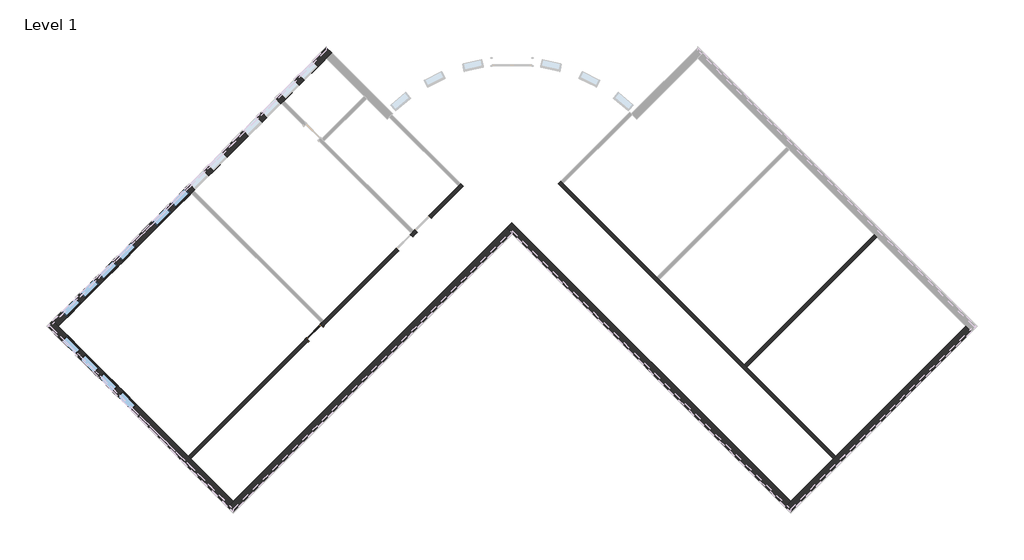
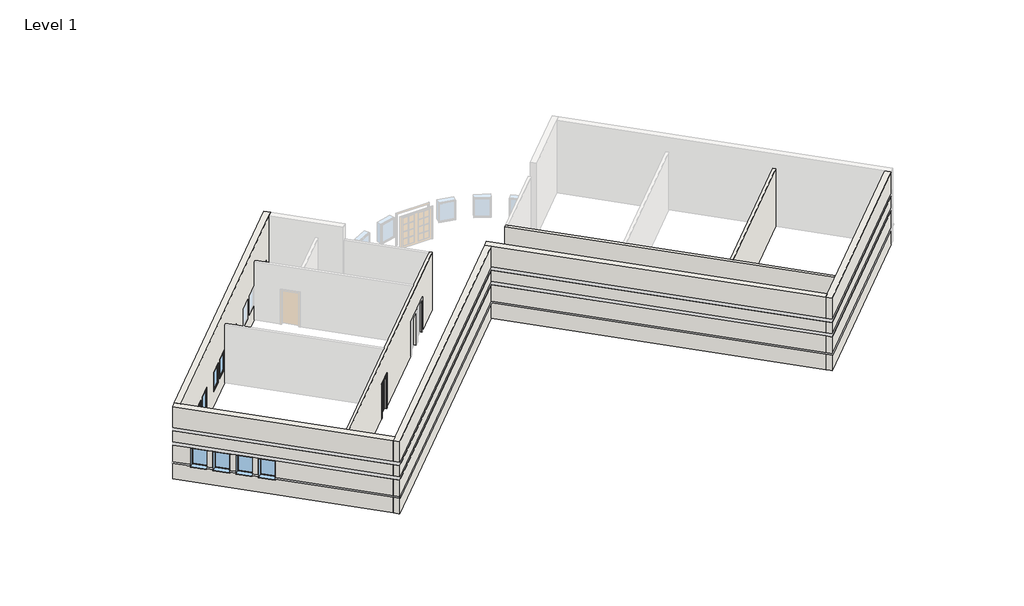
# One storey, part 1 of 3: 10 windows, 8 walls, 1 door.
"""IFC4 building model written with IfcOpenShell, lengths in millimetres."""

from ifc_helpers import new_model, si_unit, origin, origin_with_axes, place, context, project, spatial, polyline, outline, extrude, faceted_brep, transform, mapped, element, save
from components import door_b81abb0e, window_15c49d37, window_0e2fc6ce

model = new_model("IFC4")

# Units and contexts
model_context = context("Model", 3, world=origin())
ifc_project = project(units=[si_unit("LENGTHUNIT", "METRE", prefix="MILLI")], contexts=[model_context])

# Site, building, storey
site = spatial("IfcSite", under=ifc_project)
building = spatial("IfcBuilding", under=site)
storey = spatial("IfcBuildingStorey", under=building, Name="Level 1", Elevation=0.0)

# Door
placement = place(None, origin())
door_shape = door_b81abb0e(model_context)
element("IfcDoor", 1, ObjectType="Single-Glass 1 : 36\" x 84\"", at=placement, inside=storey, context=model_context, shape_type="MappedRepresentation", body=[
    mapped(door_shape, transform((-12602.8718391, -2278.0890678, 0.0), x_axis=(0.707106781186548, 0.707106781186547, 0.0), y_axis=(-0.707106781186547, 0.707106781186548, 0.0), z_axis=(0.0, 0.0, 1.0))),
])

# Walls
element("IfcWall", 2, ObjectType="Exterior - Split Face and CMU on Mtl. Stud", at=placement, inside=storey, context=model_context, shape_type="Brep", body=[
    faceted_brep([(17611.1998802, -1988.4758079, 0.0), (11574.2227029, -8025.4529853, 0.0), (11464.2145654, -8135.4611227, 0.0), (9488.5582187, -10111.1174694, 0.0), (9239.3561114, -10360.3195767, 0.0), (9239.3561114, -10360.3195767, 1016.0), (9304.4629682, -10295.2127199, 1016.0), (9304.4629682, -10295.2127199, 1085.85), (9239.3561114, -10360.3195767, 1085.85), (9239.3561114, -10360.3195767, 2133.6), (9304.4629682, -10295.2127199, 2133.6), (9304.4629682, -10295.2127199, 2336.8), (9239.3561114, -10360.3195767, 2336.8), (9239.3561114, -10360.3195767, 3048.0), (9304.4629682, -10295.2127199, 3048.0), (9304.4629682, -10295.2127199, 3251.2), (9239.3561114, -10360.3195767, 3251.2), (9239.3561114, -10360.3195767, 4572.0), (9488.5582187, -10111.1174694, 4572.0), (17611.1998802, -1988.4758079, 4572.0), (17860.4019876, -2237.6779152, 4572.0), (9488.5582187, -10609.5216841, 4572.0), (9488.5582187, -10609.5216841, 3251.2), (17860.4019876, -2237.6779152, 3251.2), (9488.5582187, -10609.5216841, 0.0), (17860.4019876, -2237.6779152, 0.0), (17860.4019876, -2237.6779152, 1016.0), (9488.5582187, -10609.5216841, 1016.0), (9488.5582187, -10609.5216841, 1085.85), (17860.4019876, -2237.6779152, 1085.85), (17860.4019876, -2237.6779152, 2133.6), (9488.5582187, -10609.5216841, 2133.6), (9488.5582187, -10609.5216841, 2336.8), (17860.4019876, -2237.6779152, 2336.8), (17860.4019876, -2237.6779152, 3048.0), (9488.5582187, -10609.5216841, 3048.0), (17795.2951307, -2172.5710583, 0.0), (9423.4513619, -10544.4148272, 0.0), (9488.5582187, -10479.3079703, 1016.0), (17795.2951307, -2172.5710583, 1016.0), (17795.2951307, -2172.5710583, 1085.85), (9488.5582187, -10479.3079703, 1085.85), (9488.5582187, -10479.3079703, 2133.6), (17795.2951307, -2172.5710583, 2133.6), (17795.2951307, -2172.5710583, 2336.8), (9488.5582187, -10479.3079703, 2336.8), (9488.5582187, -10479.3079703, 3251.2), (9488.5582187, -10479.3079703, 3048.0), (17795.2951307, -2172.5710583, 3048.0), (17795.2951307, -2172.5710583, 3251.2)], [[[0, 1, 2, 3, 4, 5, 6, 7, 8, 9, 10, 11, 12, 13, 14, 15, 16, 17, 18, 19]], [[20, 21, 22, 23]], [[24, 25, 26, 27]], [[28, 29, 30, 31]], [[32, 33, 34, 35]], [[19, 18, 17, 21, 20]], [[4, 3, 2, 1, 0, 36, 37]], [[38, 39, 40, 41]], [[42, 43, 44, 45]], [[46, 47, 48, 49]], [[0, 19, 20, 23, 49, 48, 34, 33, 44, 43, 30, 29, 40, 39, 26, 25, 36]], [[25, 24, 37, 36]], [[41, 40, 29, 28, 8, 7]], [[39, 38, 6, 5, 27, 26]], [[43, 42, 10, 9, 31, 30]], [[45, 44, 33, 32, 12, 11]], [[48, 47, 14, 13, 35, 34]], [[15, 46, 49, 23, 22, 16]], [[21, 17, 16, 22]], [[4, 37, 24, 27, 5]], [[8, 28, 31, 9]], [[12, 32, 35, 13]], [[38, 41, 7, 6]], [[42, 45, 11, 10]], [[47, 46, 15, 14]]]),
])
element("IfcWall", 3, ObjectType="Exterior - Split Face and CMU on Mtl. Stud", at=placement, inside=storey, context=model_context, shape_type="Brep", body=[
    faceted_brep([(9488.5582187, -10111.1174694, 0.0), (-3443.0105956, 2820.451345, 0.0), (-3443.0105956, 2820.451345, 4572.0), (9488.5582187, -10111.1174694, 4572.0), (9239.3561114, -10360.3195767, 4572.0), (-3443.0105956, 2322.0471303, 4572.0), (-3692.212703, 2571.2492376, 4572.0), (-3692.212703, 2571.2492376, 0.0), (-3443.0105956, 2322.0471303, 0.0), (9239.3561114, -10360.3195767, 0.0), (9239.3561114, -10360.3195767, 1016.0), (-3443.0105956, 2322.0471303, 1016.0), (-3508.1174525, 2387.1539871, 1016.0), (-3508.1174525, 2387.1539871, 1085.85), (-3443.0105956, 2322.0471303, 1085.85), (9239.3561114, -10360.3195767, 1085.85), (9239.3561114, -10360.3195767, 2133.6), (-3443.0105956, 2322.0471303, 2133.6), (-3508.1174525, 2387.1539871, 2133.6), (-3508.1174525, 2387.1539871, 2336.8), (-3443.0105956, 2322.0471303, 2336.8), (9239.3561114, -10360.3195767, 2336.8), (9239.3561114, -10360.3195767, 3048.0), (-3443.0105956, 2322.0471303, 3048.0), (-3508.1174525, 2387.1539871, 3048.0), (-3508.1174525, 2387.1539871, 3251.2), (-3443.0105956, 2322.0471303, 3251.2), (9239.3561114, -10360.3195767, 3251.2), (9304.4629682, -10295.2127199, 0.0), (-3627.1058461, 2636.3560945, 0.0), (-3443.0105956, 2452.260844, 1016.0), (9304.4629682, -10295.2127199, 1016.0), (9304.4629682, -10295.2127199, 1085.85), (-3443.0105956, 2452.260844, 1085.85), (-3443.0105956, 2452.260844, 2133.6), (9304.4629682, -10295.2127199, 2133.6), (9304.4629682, -10295.2127199, 2336.8), (-3443.0105956, 2452.260844, 2336.8), (-3443.0105956, 2452.260844, 3251.2), (-3443.0105956, 2452.260844, 3048.0), (9304.4629682, -10295.2127199, 3048.0), (9304.4629682, -10295.2127199, 3251.2)], [[[0, 1, 2, 3]], [[4, 5, 6, 7, 8, 9, 10, 11, 12, 13, 14, 15, 16, 17, 18, 19, 20, 21, 22, 23, 24, 25, 26, 27]], [[3, 2, 6, 5, 4]], [[1, 0, 28, 29]], [[30, 31, 32, 33]], [[34, 35, 36, 37]], [[38, 39, 40, 41]], [[0, 3, 4, 27, 41, 40, 22, 21, 36, 35, 16, 15, 32, 31, 10, 9, 28]], [[9, 8, 7, 29, 28]], [[33, 32, 15, 14, 13]], [[31, 30, 12, 11, 10]], [[35, 34, 18, 17, 16]], [[37, 36, 21, 20, 19]], [[40, 39, 24, 23, 22]], [[25, 38, 41, 27, 26]], [[2, 1, 29, 7, 6]], [[30, 33, 13, 12]], [[34, 37, 19, 18]], [[39, 38, 25, 24]]]),
])
element("IfcWall", 4, ObjectType="Exterior - Split Face and CMU on Mtl. Stud", at=placement, inside=storey, context=model_context, shape_type="Brep", body=[
    faceted_brep([(-3692.212703, 2571.2492376, 0.0), (-16374.5794099, -10111.1174694, 0.0), (-16623.7815173, -10360.3195767, 0.0), (-16623.7815173, -10360.3195767, 1016.0), (-16558.6746604, -10295.2127199, 1016.0), (-16558.6746604, -10295.2127199, 1085.85), (-16623.7815173, -10360.3195767, 1085.85), (-16623.7815173, -10360.3195767, 2133.6), (-16558.6746604, -10295.2127199, 2133.6), (-16558.6746604, -10295.2127199, 2336.8), (-16623.7815173, -10360.3195767, 2336.8), (-16623.7815173, -10360.3195767, 3048.0), (-16558.6746604, -10295.2127199, 3048.0), (-16558.6746604, -10295.2127199, 3251.2), (-16623.7815173, -10360.3195767, 3251.2), (-16623.7815173, -10360.3195767, 4572.0), (-16374.5794099, -10111.1174694, 4572.0), (-3692.212703, 2571.2492376, 4572.0), (-3443.0105956, 2322.0471303, 4572.0), (-16374.5794099, -10609.5216841, 4572.0), (-16374.5794099, -10609.5216841, 3251.2), (-3443.0105956, 2322.0471303, 3251.2), (-16374.5794099, -10609.5216841, 0.0), (-3443.0105956, 2322.0471303, 0.0), (-3443.0105956, 2322.0471303, 1016.0), (-16374.5794099, -10609.5216841, 1016.0), (-16374.5794099, -10609.5216841, 1085.85), (-3443.0105956, 2322.0471303, 1085.85), (-3443.0105956, 2322.0471303, 2133.6), (-16374.5794099, -10609.5216841, 2133.6), (-16374.5794099, -10609.5216841, 2336.8), (-3443.0105956, 2322.0471303, 2336.8), (-3443.0105956, 2322.0471303, 3048.0), (-16374.5794099, -10609.5216841, 3048.0), (-3508.1174525, 2387.1539871, 0.0), (-16439.6862668, -10544.4148272, 0.0), (-16374.5794099, -10479.3079703, 1016.0), (-3508.1174525, 2387.1539871, 1016.0), (-3508.1174525, 2387.1539871, 1085.85), (-16374.5794099, -10479.3079703, 1085.85), (-16374.5794099, -10479.3079703, 2133.6), (-3508.1174525, 2387.1539871, 2133.6), (-3508.1174525, 2387.1539871, 2336.8), (-16374.5794099, -10479.3079703, 2336.8), (-16374.5794099, -10479.3079703, 3251.2), (-16374.5794099, -10479.3079703, 3048.0), (-3508.1174525, 2387.1539871, 3048.0), (-3508.1174525, 2387.1539871, 3251.2)], [[[0, 1, 2, 3, 4, 5, 6, 7, 8, 9, 10, 11, 12, 13, 14, 15, 16, 17]], [[18, 19, 20, 21]], [[22, 23, 24, 25]], [[26, 27, 28, 29]], [[30, 31, 32, 33]], [[17, 16, 15, 19, 18]], [[2, 1, 0, 34, 35]], [[36, 37, 38, 39]], [[40, 41, 42, 43]], [[44, 45, 46, 47]], [[0, 17, 18, 21, 47, 46, 32, 31, 42, 41, 28, 27, 38, 37, 24, 23, 34]], [[23, 22, 35, 34]], [[39, 38, 27, 26, 6, 5]], [[37, 36, 4, 3, 25, 24]], [[41, 40, 8, 7, 29, 28]], [[43, 42, 31, 30, 10, 9]], [[46, 45, 12, 11, 33, 32]], [[13, 44, 47, 21, 20, 14]], [[19, 15, 14, 20]], [[2, 35, 22, 25, 3]], [[6, 26, 29, 7]], [[10, 30, 33, 11]], [[36, 39, 5, 4]], [[40, 43, 9, 8]], [[45, 44, 13, 12]]]),
])
element("IfcWall", 5, ObjectType="Exterior - Split Face and CMU on Mtl. Stud", at=placement, inside=storey, context=model_context, shape_type="Brep", body=[
    faceted_brep([(-16374.5794099, -10111.1174694, 0.0), (-18350.2357566, -8135.4611227, 0.0), (-18460.2438941, -8025.4529853, 0.0), (-24497.2210715, -1988.4758079, 0.0), (-24746.4231788, -1739.2737005, 0.0), (-24746.4231788, -1739.2737005, 1016.0), (-24681.3163219, -1804.3805574, 1016.0), (-24681.3163219, -1804.3805574, 1085.85), (-24746.4231788, -1739.2737005, 1085.85), (-24746.4231788, -1739.2737005, 2133.6), (-24681.3163219, -1804.3805574, 2133.6), (-24681.3163219, -1804.3805574, 2336.8), (-24746.4231788, -1739.2737005, 2336.8), (-24746.4231788, -1739.2737005, 3048.0), (-24681.3163219, -1804.3805574, 3048.0), (-24681.3163219, -1804.3805574, 3251.2), (-24746.4231788, -1739.2737005, 3251.2), (-24746.4231788, -1739.2737005, 4572.0), (-24497.2210715, -1988.4758079, 4572.0), (-16374.5794099, -10111.1174694, 4572.0), (-21496.692995, -4989.0038843, 2133.6), (-21496.692995, -4989.0038843, 914.4), (-20850.1145543, -5635.582325, 914.4), (-20850.1145543, -5635.582325, 2133.6), (-22358.7975826, -4126.8992967, 2133.6), (-22358.7975826, -4126.8992967, 914.4), (-21712.2191419, -4773.4777374, 914.4), (-21712.2191419, -4773.4777374, 2133.6), (-23220.9021702, -3264.7947091, 2133.6), (-23220.9021702, -3264.7947091, 914.4), (-22574.3237295, -3911.3731498, 914.4), (-22574.3237295, -3911.3731498, 2133.6), (-24083.0067579, -2402.6901214, 2133.6), (-24083.0067579, -2402.6901214, 914.4), (-23436.4283172, -3049.2685622, 914.4), (-23436.4283172, -3049.2685622, 2133.6), (-16623.7815173, -10360.3195767, 4572.0), (-24995.6252862, -1988.4758079, 4572.0), (-24995.6252862, -1988.4758079, 3251.2), (-16623.7815173, -10360.3195767, 3251.2), (-24995.6252862, -1988.4758079, 0.0), (-16623.7815173, -10360.3195767, 0.0), (-16623.7815173, -10360.3195767, 1016.0), (-21099.3166616, -5884.7844324, 1016.0), (-21099.3166616, -5884.7844324, 914.4), (-21745.8951024, -5238.2059917, 914.4), (-21745.8951024, -5238.2059917, 1016.0), (-21961.4212493, -5022.6798448, 1016.0), (-21961.4212493, -5022.6798448, 914.4), (-22607.99969, -4376.1014041, 914.4), (-22607.99969, -4376.1014041, 1016.0), (-22823.5258369, -4160.5752571, 1016.0), (-22823.5258369, -4160.5752571, 914.4), (-23470.1042776, -3513.9968164, 914.4), (-23470.1042776, -3513.9968164, 1016.0), (-23685.6304245, -3298.4706695, 1016.0), (-23685.6304245, -3298.4706695, 914.4), (-24332.2088652, -2651.8922288, 914.4), (-24332.2088652, -2651.8922288, 1016.0), (-24995.6252862, -1988.4758079, 1016.0), (-24995.6252862, -1988.4758079, 1085.85), (-24332.2088652, -2651.8922288, 1085.85), (-24332.2088652, -2651.8922288, 2133.6), (-24995.6252862, -1988.4758079, 2133.6), (-21099.3166616, -5884.7844324, 1085.85), (-16623.7815173, -10360.3195767, 1085.85), (-16623.7815173, -10360.3195767, 2133.6), (-21099.3166616, -5884.7844324, 2133.6), (-24995.6252862, -1988.4758079, 2336.8), (-16623.7815173, -10360.3195767, 2336.8), (-16623.7815173, -10360.3195767, 3048.0), (-24995.6252862, -1988.4758079, 3048.0), (-21745.8951024, -5238.2059917, 1085.85), (-21745.8951024, -5238.2059917, 2133.6), (-21961.4212493, -5022.6798448, 2133.6), (-21961.4212493, -5022.6798448, 1085.85), (-22607.99969, -4376.1014041, 1085.85), (-22607.99969, -4376.1014041, 2133.6), (-22823.5258369, -4160.5752571, 2133.6), (-22823.5258369, -4160.5752571, 1085.85), (-23470.1042776, -3513.9968164, 1085.85), (-23470.1042776, -3513.9968164, 2133.6), (-23685.6304245, -3298.4706695, 2133.6), (-23685.6304245, -3298.4706695, 1085.85), (-16558.6746604, -10295.2127199, 0.0), (-24930.5184293, -1923.368951, 0.0), (-24865.4115724, -1988.4758079, 1085.85), (-24267.1020084, -2586.7853719, 1085.85), (-24267.1020084, -2586.7853719, 1016.0), (-24865.4115724, -1988.4758079, 1016.0), (-16558.6746604, -10295.2127199, 2336.8), (-24865.4115724, -1988.4758079, 2336.8), (-24865.4115724, -1988.4758079, 2133.6), (-24267.1020084, -2586.7853719, 2133.6), (-23620.5235676, -3233.3638126, 2133.6), (-23404.9974207, -3448.8899596, 2133.6), (-22758.41898, -4095.4684003, 2133.6), (-22542.8928331, -4310.9945472, 2133.6), (-21896.3143924, -4957.5729879, 2133.6), (-21680.7882455, -5173.0991348, 2133.6), (-21034.2098048, -5819.6775755, 2133.6), (-16558.6746604, -10295.2127199, 2133.6), (-24865.4115724, -1988.4758079, 3251.2), (-24865.4115724, -1988.4758079, 3048.0), (-16558.6746604, -10295.2127199, 3048.0), (-16558.6746604, -10295.2127199, 3251.2), (-16558.6746604, -10295.2127199, 1085.85), (-16558.6746604, -10295.2127199, 1016.0), (-21034.2098048, -5819.6775755, 1085.85), (-21034.2098048, -5819.6775755, 1016.0), (-21680.7882455, -5173.0991348, 1085.85), (-21680.7882455, -5173.0991348, 1016.0), (-22542.8928331, -4310.9945472, 1085.85), (-22542.8928331, -4310.9945472, 1016.0), (-21896.3143924, -4957.5729879, 1016.0), (-21896.3143924, -4957.5729879, 1085.85), (-23404.9974207, -3448.8899596, 1085.85), (-23404.9974207, -3448.8899596, 1016.0), (-22758.41898, -4095.4684003, 1016.0), (-22758.41898, -4095.4684003, 1085.85), (-23620.5235676, -3233.3638126, 1016.0), (-23620.5235676, -3233.3638126, 1085.85)], [[[0, 1, 2, 3, 4, 5, 6, 7, 8, 9, 10, 11, 12, 13, 14, 15, 16, 17, 18, 19], [20, 21, 22, 23], [24, 25, 26, 27], [28, 29, 30, 31], [32, 33, 34, 35]], [[36, 37, 38, 39]], [[40, 41, 42, 43, 44, 45, 46, 47, 48, 49, 50, 51, 52, 53, 54, 55, 56, 57, 58, 59]], [[60, 61, 62, 63]], [[64, 65, 66, 67]], [[68, 69, 70, 71]], [[72, 73, 74, 75]], [[76, 77, 78, 79]], [[80, 81, 82, 83]], [[19, 18, 17, 37, 36]], [[4, 3, 2, 1, 0, 84, 85]], [[86, 87, 61, 60, 8, 7]], [[88, 89, 6, 5, 59, 58]], [[87, 86, 89, 88]], [[90, 91, 92, 93, 94, 95, 96, 97, 98, 99, 100, 101]], [[102, 103, 104, 105]], [[0, 19, 36, 39, 105, 104, 70, 69, 90, 101, 66, 65, 106, 107, 42, 41, 84]], [[41, 40, 85, 84]], [[65, 64, 108, 106]], [[43, 42, 107, 109]], [[66, 101, 100, 67]], [[63, 62, 93, 92, 10, 9]], [[99, 98, 74, 73]], [[97, 96, 78, 77]], [[95, 94, 82, 81]], [[91, 90, 69, 68, 12, 11]], [[104, 103, 14, 13, 71, 70]], [[15, 102, 105, 39, 38, 16]], [[37, 17, 16, 38]], [[4, 85, 40, 59, 5]], [[12, 68, 71, 13]], [[9, 8, 60, 63]], [[92, 91, 11, 10]], [[103, 102, 15, 14]], [[21, 20, 99, 73, 72, 110, 111, 46, 45]], [[22, 21, 45, 44]], [[23, 22, 44, 43, 109, 108, 64, 67, 100]], [[20, 23, 100, 99]], [[25, 24, 97, 77, 76, 112, 113, 50, 49]], [[26, 25, 49, 48]], [[27, 26, 48, 47, 114, 115, 75, 74, 98]], [[24, 27, 98, 97]], [[29, 28, 95, 81, 80, 116, 117, 54, 53]], [[30, 29, 53, 52]], [[31, 30, 52, 51, 118, 119, 79, 78, 96]], [[28, 31, 96, 95]], [[33, 32, 93, 62, 61, 87, 88, 58, 57]], [[34, 33, 57, 56]], [[35, 34, 56, 55, 120, 121, 83, 82, 94]], [[32, 35, 94, 93]], [[106, 108, 109, 107]], [[115, 110, 72, 75]], [[111, 114, 47, 46]], [[110, 115, 114, 111]], [[119, 112, 76, 79]], [[113, 118, 51, 50]], [[112, 119, 118, 113]], [[121, 116, 80, 83]], [[117, 120, 55, 54]], [[116, 121, 120, 117]], [[89, 86, 7, 6]]]),
])
element("IfcWall", 6, ObjectType="Exterior - Split Face and CMU on Mtl. Stud", at=placement, inside=storey, context=model_context, shape_type="Brep", body=[
    faceted_brep([(-24497.2210715, -1988.4758079, 0.0), (-18318.8048602, 4189.9404034, 0.0), (-18208.7967227, 4299.9485409, 0.0), (-14149.720956, 8359.0243076, 0.0), (-14039.7128185, 8469.0324451, 0.0), (-12064.0564718, 10444.6887918, 0.0), (-11814.8543645, 10693.8908991, 0.0), (-11814.8543645, 10693.8908991, 1016.0), (-11879.9612214, 10628.7840422, 1016.0), (-11879.9612214, 10628.7840422, 1085.85), (-11814.8543645, 10693.8908991, 1085.85), (-11814.8543645, 10693.8908991, 2133.6), (-11879.9612214, 10628.7840422, 2133.6), (-11879.9612214, 10628.7840422, 2336.8), (-11814.8543645, 10693.8908991, 2336.8), (-11814.8543645, 10693.8908991, 3048.0), (-11879.9612214, 10628.7840422, 3048.0), (-11879.9612214, 10628.7840422, 3251.2), (-11814.8543645, 10693.8908991, 3251.2), (-11814.8543645, 10693.8908991, 4572.0), (-12064.0564718, 10444.6887918, 4572.0), (-24497.2210715, -1988.4758079, 4572.0), (-24083.0067579, -1574.2614943, 914.4), (-24083.0067579, -1574.2614943, 2133.6), (-23436.4283172, -927.6830536, 2133.6), (-23436.4283172, -927.6830536, 914.4), (-23220.9021702, -712.1569067, 914.4), (-23220.9021702, -712.1569067, 2133.6), (-22574.3237295, -65.5784659, 2133.6), (-22574.3237295, -65.5784659, 914.4), (-21496.692995, 1012.0522686, 914.4), (-21496.692995, 1012.0522686, 2133.6), (-20850.1145543, 1658.6307093, 2133.6), (-20850.1145543, 1658.6307093, 914.4), (-22358.7975826, 149.947681, 914.4), (-22358.7975826, 149.947681, 2133.6), (-21712.2191419, 796.5261217, 2133.6), (-21712.2191419, 796.5261217, 914.4), (-15030.9085878, 7477.8366758, 2133.6), (-15030.9085878, 7477.8366758, 914.4), (-15677.4870285, 6831.258235, 914.4), (-15677.4870285, 6831.258235, 2133.6), (-14168.8040002, 8339.9412634, 2133.6), (-14168.8040002, 8339.9412634, 914.4), (-14815.3824409, 7693.3628227, 914.4), (-14815.3824409, 7693.3628227, 2133.6), (-13306.6994126, 9202.045851, 2133.6), (-13306.6994126, 9202.045851, 914.4), (-13953.2778533, 8555.4674103, 914.4), (-13953.2778533, 8555.4674103, 2133.6), (-12444.594825, 10064.1504386, 2133.6), (-12444.594825, 10064.1504386, 914.4), (-13091.1732657, 9417.5719979, 914.4), (-13091.1732657, 9417.5719979, 2133.6), (-17293.9331303, 5214.8121332, 914.4), (-17293.9331303, 5214.8121332, 2133.6), (-16647.3546896, 5861.390574, 2133.6), (-16647.3546896, 5861.390574, 914.4), (-18156.037718, 4352.7075456, 914.4), (-18156.037718, 4352.7075456, 2133.6), (-17509.4592772, 4999.2859863, 2133.6), (-17509.4592772, 4999.2859863, 914.4), (-19018.1423056, 3490.602958, 914.4), (-19018.1423056, 3490.602958, 2133.6), (-18371.5638649, 4137.1813987, 2133.6), (-18371.5638649, 4137.1813987, 914.4), (-19880.2468932, 2628.4983704, 914.4), (-19880.2468932, 2628.4983704, 2133.6), (-19233.6684525, 3275.0768111, 2133.6), (-19233.6684525, 3275.0768111, 914.4), (-24746.4231788, -1739.2737005, 4572.0), (-12064.0564718, 10943.0930065, 4572.0), (-12064.0564718, 10943.0930065, 3251.2), (-24746.4231788, -1739.2737005, 3251.2), (-12064.0564718, 10943.0930065, 0.0), (-24746.4231788, -1739.2737005, 0.0), (-24746.4231788, -1739.2737005, 1016.0), (-24332.2088652, -1325.0593869, 1016.0), (-24332.2088652, -1325.0593869, 914.4), (-23685.6304245, -678.4809462, 914.4), (-23685.6304245, -678.4809462, 1016.0), (-23470.1042776, -462.9547993, 1016.0), (-23470.1042776, -462.9547993, 914.4), (-22823.5258369, 183.6236414, 914.4), (-22823.5258369, 183.6236414, 1016.0), (-22607.99969, 399.1497883, 1016.0), (-22607.99969, 399.1497883, 914.4), (-21961.4212493, 1045.728229, 914.4), (-21961.4212493, 1045.728229, 1016.0), (-21745.8951024, 1261.2543759, 1016.0), (-21745.8951024, 1261.2543759, 914.4), (-21099.3166616, 1907.8328167, 914.4), (-21099.3166616, 1907.8328167, 1016.0), (-20129.4490006, 2877.7004777, 1016.0), (-20129.4490006, 2877.7004777, 914.4), (-19482.8705599, 3524.2789185, 914.4), (-19482.8705599, 3524.2789185, 1016.0), (-19267.3444129, 3739.8050654, 1016.0), (-19267.3444129, 3739.8050654, 914.4), (-18620.7659722, 4386.3835061, 914.4), (-18620.7659722, 4386.3835061, 1016.0), (-18405.2398253, 4601.909653, 1016.0), (-18405.2398253, 4601.909653, 914.4), (-17758.6613846, 5248.4880937, 914.4), (-17758.6613846, 5248.4880937, 1016.0), (-17543.1352377, 5464.0142406, 1016.0), (-17543.1352377, 5464.0142406, 914.4), (-16896.556797, 6110.5926813, 914.4), (-16896.556797, 6110.5926813, 1016.0), (-15926.6891359, 7080.4603424, 1016.0), (-15926.6891359, 7080.4603424, 914.4), (-15280.1106952, 7727.0387831, 914.4), (-15280.1106952, 7727.0387831, 1016.0), (-15064.5845483, 7942.56493, 1016.0), (-15064.5845483, 7942.56493, 914.4), (-14418.0061076, 8589.1433707, 914.4), (-14418.0061076, 8589.1433707, 1016.0), (-14202.4799607, 8804.6695176, 1016.0), (-14202.4799607, 8804.6695176, 914.4), (-13555.9015199, 9451.2479584, 914.4), (-13555.9015199, 9451.2479584, 1016.0), (-13340.375373, 9666.7741053, 1016.0), (-13340.375373, 9666.7741053, 914.4), (-12693.7969323, 10313.352546, 914.4), (-12693.7969323, 10313.352546, 1016.0), (-12064.0564718, 10943.0930065, 1016.0), (-12064.0564718, 10943.0930065, 1085.85), (-12693.7969323, 10313.352546, 1085.85), (-12693.7969323, 10313.352546, 2133.6), (-12064.0564718, 10943.0930065, 2133.6), (-24332.2088652, -1325.0593869, 1085.85), (-24746.4231788, -1739.2737005, 1085.85), (-24746.4231788, -1739.2737005, 2133.6), (-24332.2088652, -1325.0593869, 2133.6), (-12064.0564718, 10943.0930065, 2336.8), (-24746.4231788, -1739.2737005, 2336.8), (-24746.4231788, -1739.2737005, 3048.0), (-12064.0564718, 10943.0930065, 3048.0), (-23685.6304245, -678.4809462, 1085.85), (-23685.6304245, -678.4809462, 2133.6), (-23470.1042776, -462.9547993, 2133.6), (-23470.1042776, -462.9547993, 1085.85), (-13555.9015199, 9451.2479584, 2133.6), (-13340.375373, 9666.7741053, 2133.6), (-13340.375373, 9666.7741053, 1085.85), (-13555.9015199, 9451.2479584, 1085.85), (-22823.5258369, 183.6236414, 1085.85), (-22823.5258369, 183.6236414, 2133.6), (-22607.99969, 399.1497883, 2133.6), (-22607.99969, 399.1497883, 1085.85), (-14418.0061076, 8589.1433707, 2133.6), (-14202.4799607, 8804.6695176, 2133.6), (-14202.4799607, 8804.6695176, 1085.85), (-14418.0061076, 8589.1433707, 1085.85), (-21745.8951024, 1261.2543759, 2133.6), (-21745.8951024, 1261.2543759, 1085.85), (-21961.4212493, 1045.728229, 1085.85), (-21961.4212493, 1045.728229, 2133.6), (-21099.3166616, 1907.8328167, 1085.85), (-21099.3166616, 1907.8328167, 2133.6), (-20129.4490006, 2877.7004777, 2133.6), (-20129.4490006, 2877.7004777, 1085.85), (-15280.1106952, 7727.0387831, 2133.6), (-15064.5845483, 7942.56493, 2133.6), (-15064.5845483, 7942.56493, 1085.85), (-15280.1106952, 7727.0387831, 1085.85), (-16896.556797, 6110.5926813, 2133.6), (-15926.6891359, 7080.4603424, 2133.6), (-15926.6891359, 7080.4603424, 1085.85), (-16896.556797, 6110.5926813, 1085.85), (-19267.3444129, 3739.8050654, 1085.85), (-19482.8705599, 3524.2789185, 1085.85), (-19482.8705599, 3524.2789185, 2133.6), (-19267.3444129, 3739.8050654, 2133.6), (-18405.2398253, 4601.909653, 1085.85), (-18620.7659722, 4386.3835061, 1085.85), (-18620.7659722, 4386.3835061, 2133.6), (-18405.2398253, 4601.909653, 2133.6), (-17543.1352377, 5464.0142406, 1085.85), (-17758.6613846, 5248.4880937, 1085.85), (-17758.6613846, 5248.4880937, 2133.6), (-17543.1352377, 5464.0142406, 2133.6), (-24681.3163219, -1804.3805574, 0.0), (-11998.949615, 10877.9861496, 0.0), (-12064.0564718, 10812.8792927, 1085.85), (-12628.6900754, 10248.2456891, 1085.85), (-12628.6900754, 10248.2456891, 1016.0), (-12064.0564718, 10812.8792927, 1016.0), (-24681.3163219, -1804.3805574, 2336.8), (-12064.0564718, 10812.8792927, 2336.8), (-12064.0564718, 10812.8792927, 2133.6), (-12628.6900754, 10248.2456891, 2133.6), (-13275.2685162, 9601.6672484, 2133.6), (-13490.7946631, 9386.1411015, 2133.6), (-14137.3731038, 8739.5626608, 2133.6), (-14352.8992507, 8524.0365139, 2133.6), (-14999.4776914, 7877.4580731, 2133.6), (-15215.0038383, 7661.9319262, 2133.6), (-15861.582279, 7015.3534855, 2133.6), (-16831.4499401, 6045.4858244, 2133.6), (-17478.0283808, 5398.9073837, 2133.6), (-17693.5545277, 5183.3812368, 2133.6), (-18340.1329684, 4536.8027961, 2133.6), (-18555.6591154, 4321.2766492, 2133.6), (-19202.2375561, 3674.6982085, 2133.6), (-19417.763703, 3459.1720616, 2133.6), (-20064.3421437, 2812.5936209, 2133.6), (-21034.2098048, 1842.7259598, 2133.6), (-21680.7882455, 1196.1475191, 2133.6), (-21896.3143924, 980.6213722, 2133.6), (-22542.8928331, 334.0429314, 2133.6), (-22758.41898, 118.5167845, 2133.6), (-23404.9974207, -528.0616562, 2133.6), (-23620.5235676, -743.5878031, 2133.6), (-24267.1020084, -1390.1662438, 2133.6), (-24681.3163219, -1804.3805574, 2133.6), (-12064.0564718, 10812.8792927, 3251.2), (-12064.0564718, 10812.8792927, 3048.0), (-24681.3163219, -1804.3805574, 3048.0), (-24681.3163219, -1804.3805574, 3251.2), (-24681.3163219, -1804.3805574, 1085.85), (-24681.3163219, -1804.3805574, 1016.0), (-24267.1020084, -1390.1662438, 1085.85), (-24267.1020084, -1390.1662438, 1016.0), (-23620.5235676, -743.5878031, 1085.85), (-23620.5235676, -743.5878031, 1016.0), (-13490.7946631, 9386.1411015, 1085.85), (-13275.2685162, 9601.6672484, 1085.85), (-13275.2685162, 9601.6672484, 1016.0), (-13490.7946631, 9386.1411015, 1016.0), (-23404.9974207, -528.0616562, 1016.0), (-23404.9974207, -528.0616562, 1085.85), (-22758.41898, 118.5167845, 1085.85), (-22758.41898, 118.5167845, 1016.0), (-14352.8992507, 8524.0365139, 1085.85), (-14137.3731038, 8739.5626608, 1085.85), (-14137.3731038, 8739.5626608, 1016.0), (-14352.8992507, 8524.0365139, 1016.0), (-21680.7882455, 1196.1475191, 1016.0), (-21680.7882455, 1196.1475191, 1085.85), (-21034.2098048, 1842.7259598, 1085.85), (-21034.2098048, 1842.7259598, 1016.0), (-15215.0038383, 7661.9319262, 1085.85), (-14999.4776914, 7877.4580731, 1085.85), (-14999.4776914, 7877.4580731, 1016.0), (-15215.0038383, 7661.9319262, 1016.0), (-22542.8928331, 334.0429314, 1016.0), (-22542.8928331, 334.0429314, 1085.85), (-21896.3143924, 980.6213722, 1085.85), (-21896.3143924, 980.6213722, 1016.0), (-16831.4499401, 6045.4858244, 1085.85), (-15861.582279, 7015.3534855, 1085.85), (-15861.582279, 7015.3534855, 1016.0), (-16831.4499401, 6045.4858244, 1016.0), (-20064.3421437, 2812.5936209, 1085.85), (-20064.3421437, 2812.5936209, 1016.0), (-19202.2375561, 3674.6982085, 1085.85), (-19417.763703, 3459.1720616, 1085.85), (-19417.763703, 3459.1720616, 1016.0), (-19202.2375561, 3674.6982085, 1016.0), (-18340.1329684, 4536.8027961, 1085.85), (-18555.6591154, 4321.2766492, 1085.85), (-18555.6591154, 4321.2766492, 1016.0), (-18340.1329684, 4536.8027961, 1016.0), (-17478.0283808, 5398.9073837, 1085.85), (-17693.5545277, 5183.3812368, 1085.85), (-17693.5545277, 5183.3812368, 1016.0), (-17478.0283808, 5398.9073837, 1016.0)], [[[0, 1, 2, 3, 4, 5, 6, 7, 8, 9, 10, 11, 12, 13, 14, 15, 16, 17, 18, 19, 20, 21], [22, 23, 24, 25], [26, 27, 28, 29], [30, 31, 32, 33], [34, 35, 36, 37], [38, 39, 40, 41], [42, 43, 44, 45], [46, 47, 48, 49], [50, 51, 52, 53], [54, 55, 56, 57], [58, 59, 60, 61], [62, 63, 64, 65], [66, 67, 68, 69]], [[70, 71, 72, 73]], [[74, 75, 76, 77, 78, 79, 80, 81, 82, 83, 84, 85, 86, 87, 88, 89, 90, 91, 92, 93, 94, 95, 96, 97, 98, 99, 100, 101, 102, 103, 104, 105, 106, 107, 108, 109, 110, 111, 112, 113, 114, 115, 116, 117, 118, 119, 120, 121, 122, 123, 124, 125]], [[126, 127, 128, 129]], [[130, 131, 132, 133]], [[134, 135, 136, 137]], [[138, 139, 140, 141]], [[142, 143, 144, 145]], [[146, 147, 148, 149]], [[150, 151, 152, 153]], [[154, 155, 156, 157]], [[158, 159, 160, 161]], [[162, 163, 164, 165]], [[166, 167, 168, 169]], [[170, 171, 172, 173]], [[174, 175, 176, 177]], [[178, 179, 180, 181]], [[21, 20, 19, 71, 70]], [[6, 5, 4, 3, 2, 1, 0, 182, 183]], [[184, 185, 127, 126, 10, 9]], [[186, 187, 8, 7, 125, 124]], [[185, 184, 187, 186]], [[188, 189, 190, 191, 192, 193, 194, 195, 196, 197, 198, 199, 200, 201, 202, 203, 204, 205, 206, 207, 208, 209, 210, 211, 212, 213, 214, 215]], [[216, 217, 218, 219]], [[0, 21, 70, 73, 219, 218, 136, 135, 188, 215, 132, 131, 220, 221, 76, 75, 182]], [[75, 74, 183, 182]], [[131, 130, 222, 220]], [[77, 76, 221, 223]], [[132, 215, 214, 133]], [[129, 128, 191, 190, 12, 11]], [[139, 213, 212, 140]], [[143, 142, 193, 192]], [[147, 211, 210, 148]], [[151, 150, 195, 194]], [[208, 154, 157, 209]], [[159, 207, 206, 160]], [[163, 162, 197, 196]], [[167, 166, 199, 198]], [[173, 172, 205, 204]], [[177, 176, 203, 202]], [[181, 180, 201, 200]], [[189, 188, 135, 134, 14, 13]], [[218, 217, 16, 15, 137, 136]], [[17, 216, 219, 73, 72, 18]], [[71, 19, 18, 72]], [[6, 183, 74, 125, 7]], [[14, 134, 137, 15]], [[11, 10, 126, 129]], [[190, 189, 13, 12]], [[217, 216, 17, 16]], [[23, 22, 78, 77, 223, 222, 130, 133, 214]], [[79, 78, 22, 25]], [[25, 24, 213, 139, 138, 224, 225, 80, 79]], [[24, 23, 214, 213]], [[226, 227, 228, 229]], [[27, 26, 82, 81, 230, 231, 141, 140, 212]], [[83, 82, 26, 29]], [[29, 28, 211, 147, 146, 232, 233, 84, 83]], [[28, 27, 212, 211]], [[234, 235, 236, 237]], [[227, 226, 145, 144]], [[229, 228, 121, 120]], [[31, 30, 90, 89, 238, 239, 155, 154, 208]], [[91, 90, 30, 33]], [[33, 32, 207, 159, 158, 240, 241, 92, 91]], [[32, 31, 208, 207]], [[242, 243, 244, 245]], [[235, 234, 153, 152]], [[237, 236, 117, 116]], [[35, 34, 86, 85, 246, 247, 149, 148, 210]], [[87, 86, 34, 37]], [[37, 36, 209, 157, 156, 248, 249, 88, 87]], [[36, 35, 210, 209]], [[250, 251, 252, 253]], [[243, 242, 165, 164]], [[245, 244, 113, 112]], [[39, 38, 197, 162, 165, 242, 245, 112, 111]], [[40, 39, 111, 110]], [[41, 40, 110, 109, 252, 251, 168, 167, 198]], [[38, 41, 198, 197]], [[43, 42, 195, 150, 153, 234, 237, 116, 115]], [[44, 43, 115, 114]], [[45, 44, 114, 113, 244, 243, 164, 163, 196]], [[42, 45, 196, 195]], [[47, 46, 193, 142, 145, 226, 229, 120, 119]], [[48, 47, 119, 118]], [[49, 48, 118, 117, 236, 235, 152, 151, 194]], [[46, 49, 194, 193]], [[51, 50, 191, 128, 127, 185, 186, 124, 123]], [[52, 51, 123, 122]], [[53, 52, 122, 121, 228, 227, 144, 143, 192]], [[50, 53, 192, 191]], [[240, 254, 255, 241]], [[256, 257, 171, 170]], [[258, 259, 97, 96]], [[257, 256, 259, 258]], [[260, 261, 175, 174]], [[262, 263, 101, 100]], [[261, 260, 263, 262]], [[264, 265, 179, 178]], [[266, 267, 105, 104]], [[265, 264, 267, 266]], [[251, 250, 169, 168]], [[253, 252, 109, 108]], [[55, 54, 106, 105, 267, 264, 178, 181, 200]], [[107, 106, 54, 57]], [[57, 56, 199, 166, 169, 250, 253, 108, 107]], [[56, 55, 200, 199]], [[59, 58, 102, 101, 263, 260, 174, 177, 202]], [[103, 102, 58, 61]], [[61, 60, 201, 180, 179, 265, 266, 104, 103]], [[60, 59, 202, 201]], [[63, 62, 98, 97, 259, 256, 170, 173, 204]], [[99, 98, 62, 65]], [[65, 64, 203, 176, 175, 261, 262, 100, 99]], [[64, 63, 204, 203]], [[67, 66, 94, 93, 255, 254, 161, 160, 206]], [[95, 94, 66, 69]], [[69, 68, 205, 172, 171, 257, 258, 96, 95]], [[68, 67, 206, 205]], [[220, 222, 223, 221]], [[231, 224, 138, 141]], [[225, 230, 81, 80]], [[224, 231, 230, 225]], [[247, 232, 146, 149]], [[233, 246, 85, 84]], [[232, 247, 246, 233]], [[239, 248, 156, 155]], [[249, 238, 89, 88]], [[248, 239, 238, 249]], [[254, 240, 158, 161]], [[241, 255, 93, 92]], [[187, 184, 9, 8]]]),
])
element("IfcWall", 7, ObjectType="Interior - 6 1/8\" Partition (2-hr)", at=placement, inside=storey, context=model_context, shape_type="Brep", body=[
    faceted_brep([(-8055.4946458, 2159.2799881, 0.0), (-7839.9684989, 2374.806135, 0.0), (-7839.9684989, 2374.806135, 2133.6), (-7193.3900582, 3021.3845757, 2133.6), (-7193.3900582, 3021.3845757, 0.0), (-5703.7900741, 4510.9845598, 0.0), (-5703.7900741, 4510.9845598, 3657.6), (-18350.2357566, -8135.4611227, 3657.6), (-18350.2357566, -8135.4611227, 0.0), (-12871.1569907, -2656.3823569, 0.0), (-12871.1569907, -2656.3823569, 2133.6), (-12224.57855, -2009.8039162, 2133.6), (-12224.57855, -2009.8039162, 0.0), (-8702.0730865, 1512.7015473, 0.0), (-8702.0730865, 1512.7015473, 2133.6), (-8055.4946458, 2159.2799881, 2133.6), (-7949.9766364, 2484.8142724, 2133.6), (-7949.9766364, 2484.8142724, 0.0), (-8002.7356411, 2432.0552677, 0.0), (-8112.7437786, 2322.0471303, 0.0), (-8165.5027833, 2269.2881255, 0.0), (-8165.5027833, 2269.2881255, 2133.6), (-8812.081224, 1622.7096848, 2133.6), (-8812.081224, 1622.7096848, 0.0), (-12171.8195453, -1737.0286365, 0.0), (-12281.8276828, -1847.036774, 0.0), (-12334.5866875, -1899.7957787, 0.0), (-12334.5866875, -1899.7957787, 2133.6), (-12981.1651282, -2546.3742194, 2133.6), (-12981.1651282, -2546.3742194, 0.0), (-18460.2438941, -8025.4529853, 0.0), (-18460.2438941, -8025.4529853, 3657.6), (-12281.8276828, -1847.036774, 3657.6), (-12171.8195453, -1737.0286365, 3657.6), (-8112.7437786, 2322.0471303, 3657.6), (-8002.7356411, 2432.0552677, 3657.6), (-5923.8063491, 4510.9845598, 3657.6), (-5813.7982116, 4620.9926972, 3657.6), (-5813.7982116, 4620.9926972, 0.0), (-5923.8063491, 4510.9845598, 0.0), (-7303.3981957, 3131.3927132, 0.0), (-7303.3981957, 3131.3927132, 2133.6)], [[[0, 1, 2, 3, 4, 5, 6, 7, 8, 9, 10, 11, 12, 13, 14, 15]], [[16, 17, 18, 19, 20, 21, 22, 23, 24, 25, 26, 27, 28, 29, 30, 31, 32, 33, 34, 35, 36, 37, 38, 39, 40, 41]], [[9, 8, 30, 29]], [[13, 12, 26, 25, 24, 23]], [[40, 39, 38, 5, 4]], [[20, 19, 18, 17, 1, 0]], [[7, 6, 37, 36, 35, 34, 33, 32, 31]], [[8, 7, 31, 30]], [[6, 5, 38, 37]], [[27, 26, 12, 11]], [[28, 27, 11, 10]], [[29, 28, 10, 9]], [[21, 20, 0, 15]], [[22, 21, 15, 14]], [[23, 22, 14, 13]], [[2, 1, 17, 16]], [[3, 2, 16, 41]], [[4, 3, 41, 40]]]),
])
element("IfcWall", 8, ObjectType="Interior - 6 1/8\" Partition (2-hr)", at=placement, inside=storey, context=model_context, shape_type="Brep", body=[
    faceted_brep([(11574.2227029, -8025.4529853, 0.0), (7443.3048872, -3894.5351696, 0.0), (7333.2967497, -3784.5270321, 0.0), (3381.9840564, 166.7856612, 0.0), (3271.9759189, 276.7937987, 0.0), (-1077.8356397, 4626.6053573, 0.0), (-1187.8437772, 4736.6134948, 0.0), (-1187.8437772, 4736.6134948, 3657.6), (-1077.8356397, 4626.6053573, 3657.6), (3271.9759189, 276.7937987, 3657.6), (3381.9840564, 166.7856612, 3657.6), (7333.2967497, -3784.5270321, 3657.6), (7443.3048872, -3894.5351696, 3657.6), (11574.2227029, -8025.4529853, 3657.6), (11464.2145654, -8135.4611227, 0.0), (11464.2145654, -8135.4611227, 3657.6), (-1297.8519147, 4626.6053573, 3657.6), (-1297.8519147, 4626.6053573, 0.0)], [[[0, 1, 2, 3, 4, 5, 6, 7, 8, 9, 10, 11, 12, 13]], [[14, 15, 16, 17]], [[6, 5, 4, 3, 2, 1, 0, 14, 17]], [[13, 12, 11, 10, 9, 8, 7, 16, 15]], [[0, 13, 15, 14]], [[7, 6, 17, 16]]]),
])
element("IfcWall", 9, ObjectType="Interior - 6 1/8\" Partition (2-hr)", at=placement, inside=storey, context=model_context, shape_type="SweptSolid", body=[
    extrude(outline(polyline([(7333.2967497, -3784.5270321), (13370.2739271, 2252.4501453), (13480.2820645, 2142.4420078), (7443.3048872, -3894.5351696), (7333.2967497, -3784.5270321)])), origin_with_axes(), (0.0, 0.0, 1.0), 3657.6),
])

# Windows
window_shape = window_15c49d37(model_context)
element("IfcWindow", 10, ObjectType="Fixed : 36\" x 48\"", at=placement, inside=storey, context=model_context, shape_type="MappedRepresentation", body=[
    mapped(window_shape, transform((-23911.2593596, -1153.3119886, 0.0), x_axis=(-0.7071067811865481, -0.7071067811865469, 0.0), y_axis=(0.7071067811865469, -0.7071067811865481, 0.0), z_axis=(0.0, 0.0, 1.0))),
])
element("IfcWindow", 11, ObjectType="Fixed : 36\" x 48\"", at=placement, inside=storey, context=model_context, shape_type="MappedRepresentation", body=[
    mapped(window_shape, transform((-23049.1547719, -291.207401, 0.0), x_axis=(-0.7071067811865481, -0.7071067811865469, 0.0), y_axis=(0.7071067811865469, -0.7071067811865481, 0.0), z_axis=(0.0, 0.0, 1.0))),
])
element("IfcWindow", 12, ObjectType="Fixed : 36\" x 48\"", at=placement, inside=storey, context=model_context, shape_type="MappedRepresentation", body=[
    mapped(window_shape, transform((-22187.0501843, 570.8971866, 0.0), x_axis=(-0.7071067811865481, -0.7071067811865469, 0.0), y_axis=(0.7071067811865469, -0.7071067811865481, 0.0), z_axis=(0.0, 0.0, 1.0))),
])
element("IfcWindow", 13, ObjectType="Fixed : 36\" x 48\"", at=placement, inside=storey, context=model_context, shape_type="MappedRepresentation", body=[
    mapped(window_shape, transform((-21324.9455967, 1433.0017743, 0.0), x_axis=(-0.7071067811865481, -0.7071067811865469, 0.0), y_axis=(0.7071067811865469, -0.7071067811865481, 0.0), z_axis=(0.0, 0.0, 1.0))),
])
element("IfcWindow", 14, ObjectType="Fixed : 36\" x 48\"", at=placement, inside=storey, context=model_context, shape_type="MappedRepresentation", body=[
    mapped(window_shape, transform((-19708.4994949, 3049.4478761, 0.0), x_axis=(-0.7071067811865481, -0.7071067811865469, 0.0), y_axis=(0.7071067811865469, -0.7071067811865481, 0.0), z_axis=(0.0, 0.0, 1.0))),
])
element("IfcWindow", 15, ObjectType="Fixed : 36\" x 48\"", at=placement, inside=storey, context=model_context, shape_type="MappedRepresentation", body=[
    mapped(window_shape, transform((-18846.3949073, 3911.5524637, 0.0), x_axis=(-0.7071067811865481, -0.7071067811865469, 0.0), y_axis=(0.7071067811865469, -0.7071067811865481, 0.0), z_axis=(0.0, 0.0, 1.0))),
])
window_2_shape = window_0e2fc6ce(model_context)
element("IfcWindow", 16, ObjectType="Fixed : 36\" x 48\"", at=placement, inside=storey, context=model_context, shape_type="MappedRepresentation", body=[
    mapped(window_2_shape, transform((-23911.2593596, -2823.6396271, 0.0), x_axis=(-0.7071067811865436, 0.7071067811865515, 0.0), y_axis=(-0.7071067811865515, -0.7071067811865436, 0.0), z_axis=(0.0, 0.0, 1.0))),
])
element("IfcWindow", 17, ObjectType="Fixed : 36\" x 48\"", at=placement, inside=storey, context=model_context, shape_type="MappedRepresentation", body=[
    mapped(window_2_shape, transform((-23049.1547719, -3685.7442147, 0.0), x_axis=(-0.7071067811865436, 0.7071067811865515, 0.0), y_axis=(-0.7071067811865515, -0.7071067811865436, 0.0), z_axis=(0.0, 0.0, 1.0))),
])
element("IfcWindow", 18, ObjectType="Fixed : 36\" x 48\"", at=placement, inside=storey, context=model_context, shape_type="MappedRepresentation", body=[
    mapped(window_2_shape, transform((-22187.0501843, -4547.8488024, 0.0), x_axis=(-0.7071067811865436, 0.7071067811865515, 0.0), y_axis=(-0.7071067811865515, -0.7071067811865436, 0.0), z_axis=(0.0, 0.0, 1.0))),
])
element("IfcWindow", 19, ObjectType="Fixed : 36\" x 48\"", at=placement, inside=storey, context=model_context, shape_type="MappedRepresentation", body=[
    mapped(window_2_shape, transform((-21324.9455967, -5409.95339, 0.0), x_axis=(-0.7071067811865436, 0.7071067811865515, 0.0), y_axis=(-0.7071067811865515, -0.7071067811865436, 0.0), z_axis=(0.0, 0.0, 1.0))),
])

save(model, "model.ifc")
